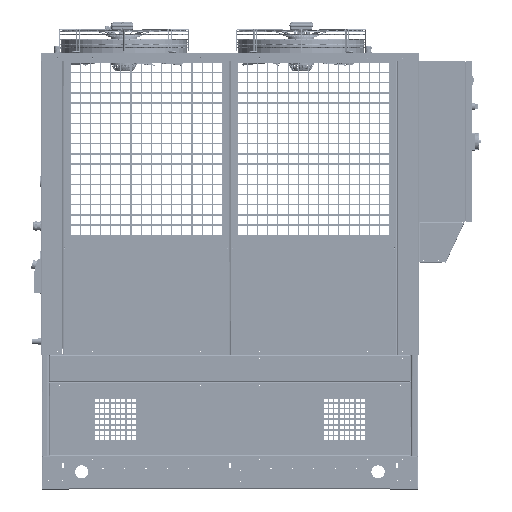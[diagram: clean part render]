
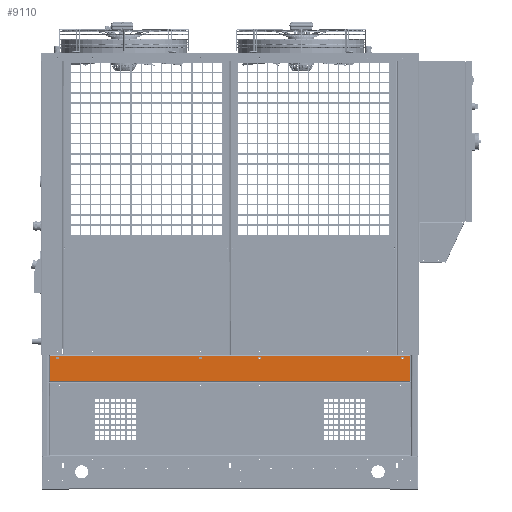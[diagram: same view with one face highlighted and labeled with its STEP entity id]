
A CAD part, top view. The second image highlights one B-rep face of the part: STEP entity #9110.
In plain terms, the highlighted planar face has unit normal (0, 0, 1).
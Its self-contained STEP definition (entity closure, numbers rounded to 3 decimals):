
#1119 = EDGE_CURVE ( 'NONE', #52846, #259518, #119959, .T. ) ;
#3527 = DIRECTION ( 'NONE',  ( 0., 0., 1. ) ) ;
#8339 = CARTESIAN_POINT ( 'NONE',  ( 672.75, -48.75, 0. ) ) ;
#9110 = ADVANCED_FACE ( 'NONE', ( #229196, #326012, #216278, #106721, #119667 ), #424300, .T. ) ;
#11253 = VECTOR ( 'NONE', #343715, 1000. ) ;
#19491 = AXIS2_PLACEMENT_3D ( 'NONE', #528167, #281430, #34521 ) ;
#24167 = LINE ( 'NONE', #428242, #11253 ) ;
#26623 = CARTESIAN_POINT ( 'NONE',  ( 110.95, 40.75, 0. ) ) ;
#27180 = DIRECTION ( 'NONE',  ( 0., 0., 1. ) ) ;
#28158 = CIRCLE ( 'NONE', #39585, 5.5 ) ;
#29662 = CARTESIAN_POINT ( 'NONE',  ( -645.45, 40.75, 0. ) ) ;
#29701 = CARTESIAN_POINT ( 'NONE',  ( -672.75, -45.75, 0. ) ) ;
#33751 = ORIENTED_EDGE ( 'NONE', *, *, #138100, .T. ) ;
#34521 = DIRECTION ( 'NONE',  ( -1., 0., 0. ) ) ;
#36565 = AXIS2_PLACEMENT_3D ( 'NONE', #118766, #406872, #160084 ) ;
#38744 = ORIENTED_EDGE ( 'NONE', *, *, #189154, .F. ) ;
#39585 = AXIS2_PLACEMENT_3D ( 'NONE', #274096, #27180, #315628 ) ;
#46726 = VERTEX_POINT ( 'NONE', #506224 ) ;
#48771 = AXIS2_PLACEMENT_3D ( 'NONE', #26623, #315084, #68113 ) ;
#48979 = CARTESIAN_POINT ( 'NONE',  ( -116.45, 40.75, 0. ) ) ;
#49564 = CARTESIAN_POINT ( 'NONE',  ( -110.95, 40.75, 0. ) ) ;
#52846 = VERTEX_POINT ( 'NONE', #226850 ) ;
#54338 = VERTEX_POINT ( 'NONE', #267734 ) ;
#56524 = CARTESIAN_POINT ( 'NONE',  ( 645.45, 40.75, 0. ) ) ;
#58479 = LINE ( 'NONE', #77660, #483899 ) ;
#58719 = VERTEX_POINT ( 'NONE', #519301 ) ;
#68077 = AXIS2_PLACEMENT_3D ( 'NONE', #382875, #465736, #218997 ) ;
#68113 = DIRECTION ( 'NONE',  ( -1., 0., 0. ) ) ;
#69437 = VERTEX_POINT ( 'NONE', #391870 ) ;
#71142 = DIRECTION ( 'NONE',  ( 1., 0., 0. ) ) ;
#72517 = EDGE_LOOP ( 'NONE', ( #38744, #531172 ) ) ;
#73005 = DIRECTION ( 'NONE',  ( 1., 0., 0. ) ) ;
#77660 = CARTESIAN_POINT ( 'NONE',  ( -672.75, -48.75, 0. ) ) ;
#82395 = EDGE_LOOP ( 'NONE', ( #33751, #331281 ) ) ;
#83871 = CIRCLE ( 'NONE', #19491, 5.5 ) ;
#91072 = DIRECTION ( 'NONE',  ( 1., 0., 0. ) ) ;
#95907 = VERTEX_POINT ( 'NONE', #135551 ) ;
#98054 = DIRECTION ( 'NONE',  ( -1., 0., 0. ) ) ;
#106721 = FACE_OUTER_BOUND ( 'NONE', #117902, .T. ) ;
#110337 = EDGE_CURVE ( 'NONE', #95907, #54338, #24167, .T. ) ;
#111994 = EDGE_CURVE ( 'NONE', #501181, #95907, #183214, .T. ) ;
#117902 = EDGE_LOOP ( 'NONE', ( #232212, #289185, #226694, #248452 ) ) ;
#118766 = CARTESIAN_POINT ( 'NONE',  ( 645.45, 40.75, 0. ) ) ;
#119667 = FACE_BOUND ( 'NONE', #82395, .T. ) ;
#119959 = CIRCLE ( 'NONE', #500566, 5.5 ) ;
#135551 = CARTESIAN_POINT ( 'NONE',  ( 672.75, 48.75, 0. ) ) ;
#138100 = EDGE_CURVE ( 'NONE', #297773, #46726, #151747, .T. ) ;
#140337 = VERTEX_POINT ( 'NONE', #29701 ) ;
#151747 = CIRCLE ( 'NONE', #48771, 5.5 ) ;
#160084 = DIRECTION ( 'NONE',  ( -1., 0., 0. ) ) ;
#160567 = DIRECTION ( 'NONE',  ( 0., -1., 0. ) ) ;
#171277 = EDGE_CURVE ( 'NONE', #259518, #52846, #493313, .T. ) ;
#183214 = LINE ( 'NONE', #8339, #292924 ) ;
#189154 = EDGE_CURVE ( 'NONE', #69437, #58719, #431920, .T. ) ;
#216278 = FACE_BOUND ( 'NONE', #72517, .T. ) ;
#218997 = DIRECTION ( 'NONE',  ( 1., 0., 0. ) ) ;
#219795 = LINE ( 'NONE', #278479, #426003 ) ;
#220493 = CARTESIAN_POINT ( 'NONE',  ( -105.45, 40.75, 0. ) ) ;
#226694 = ORIENTED_EDGE ( 'NONE', *, *, #111994, .T. ) ;
#226850 = CARTESIAN_POINT ( 'NONE',  ( 650.95, 40.75, 0. ) ) ;
#229196 = FACE_BOUND ( 'NONE', #232888, .T. ) ;
#232212 = ORIENTED_EDGE ( 'NONE', *, *, #290193, .T. ) ;
#232888 = EDGE_LOOP ( 'NONE', ( #498955, #292188 ) ) ;
#246209 = EDGE_CURVE ( 'NONE', #46726, #297773, #83871, .T. ) ;
#247304 = CARTESIAN_POINT ( 'NONE',  ( 639.95, 40.75, 0. ) ) ;
#248452 = ORIENTED_EDGE ( 'NONE', *, *, #110337, .T. ) ;
#250423 = CARTESIAN_POINT ( 'NONE',  ( -645.45, 40.75, 0. ) ) ;
#252897 = EDGE_LOOP ( 'NONE', ( #496450, #259346 ) ) ;
#259346 = ORIENTED_EDGE ( 'NONE', *, *, #270694, .F. ) ;
#259518 = VERTEX_POINT ( 'NONE', #247304 ) ;
#267734 = CARTESIAN_POINT ( 'NONE',  ( -672.75, 48.75, 0. ) ) ;
#270694 = EDGE_CURVE ( 'NONE', #410440, #504632, #473614, .T. ) ;
#274096 = CARTESIAN_POINT ( 'NONE',  ( -110.95, 40.75, 0. ) ) ;
#277367 = AXIS2_PLACEMENT_3D ( 'NONE', #250423, #3527, #291880 ) ;
#278479 = CARTESIAN_POINT ( 'NONE',  ( -672.75, -45.75, 0. ) ) ;
#281430 = DIRECTION ( 'NONE',  ( 0., 0., -1. ) ) ;
#289185 = ORIENTED_EDGE ( 'NONE', *, *, #453588, .T. ) ;
#290193 = EDGE_CURVE ( 'NONE', #54338, #140337, #58479, .T. ) ;
#291880 = DIRECTION ( 'NONE',  ( 1., 0., 0. ) ) ;
#292188 = ORIENTED_EDGE ( 'NONE', *, *, #171277, .T. ) ;
#292924 = VECTOR ( 'NONE', #338193, 1000. ) ;
#297773 = VERTEX_POINT ( 'NONE', #506611 ) ;
#298048 = EDGE_CURVE ( 'NONE', #504632, #410440, #28158, .T. ) ;
#315084 = DIRECTION ( 'NONE',  ( 0., 0., -1. ) ) ;
#315628 = DIRECTION ( 'NONE',  ( 1., 0., 0. ) ) ;
#318118 = DIRECTION ( 'NONE',  ( 0., 0., 1. ) ) ;
#326012 = FACE_BOUND ( 'NONE', #252897, .T. ) ;
#331281 = ORIENTED_EDGE ( 'NONE', *, *, #246209, .T. ) ;
#337985 = DIRECTION ( 'NONE',  ( 0., 0., 1. ) ) ;
#338193 = DIRECTION ( 'NONE',  ( 0., 1., 0. ) ) ;
#343715 = DIRECTION ( 'NONE',  ( -1., 0., 0. ) ) ;
#344868 = DIRECTION ( 'NONE',  ( 0., 0., -1. ) ) ;
#356059 = AXIS2_PLACEMENT_3D ( 'NONE', #49564, #337985, #91072 ) ;
#370435 = CIRCLE ( 'NONE', #390614, 5.5 ) ;
#382875 = CARTESIAN_POINT ( 'NONE',  ( 0., 0., 0. ) ) ;
#390614 = AXIS2_PLACEMENT_3D ( 'NONE', #29662, #318118, #71142 ) ;
#391870 = CARTESIAN_POINT ( 'NONE',  ( -639.95, 40.75, 0. ) ) ;
#406872 = DIRECTION ( 'NONE',  ( 0., 0., -1. ) ) ;
#410440 = VERTEX_POINT ( 'NONE', #48979 ) ;
#424300 = PLANE ( 'NONE',  #68077 ) ;
#426003 = VECTOR ( 'NONE', #73005, 1000. ) ;
#428242 = CARTESIAN_POINT ( 'NONE',  ( 672.75, 48.75, 0. ) ) ;
#431920 = CIRCLE ( 'NONE', #277367, 5.5 ) ;
#453588 = EDGE_CURVE ( 'NONE', #140337, #501181, #219795, .T. ) ;
#465736 = DIRECTION ( 'NONE',  ( 0., 0., 1. ) ) ;
#470072 = EDGE_CURVE ( 'NONE', #58719, #69437, #370435, .T. ) ;
#473614 = CIRCLE ( 'NONE', #356059, 5.5 ) ;
#483899 = VECTOR ( 'NONE', #160567, 1000. ) ;
#493313 = CIRCLE ( 'NONE', #36565, 5.5 ) ;
#496450 = ORIENTED_EDGE ( 'NONE', *, *, #298048, .F. ) ;
#498955 = ORIENTED_EDGE ( 'NONE', *, *, #1119, .T. ) ;
#499246 = CARTESIAN_POINT ( 'NONE',  ( 672.75, -45.75, 0. ) ) ;
#500566 = AXIS2_PLACEMENT_3D ( 'NONE', #56524, #344868, #98054 ) ;
#501181 = VERTEX_POINT ( 'NONE', #499246 ) ;
#504632 = VERTEX_POINT ( 'NONE', #220493 ) ;
#506224 = CARTESIAN_POINT ( 'NONE',  ( 105.45, 40.75, 0. ) ) ;
#506611 = CARTESIAN_POINT ( 'NONE',  ( 116.45, 40.75, 0. ) ) ;
#519301 = CARTESIAN_POINT ( 'NONE',  ( -650.95, 40.75, 0. ) ) ;
#528167 = CARTESIAN_POINT ( 'NONE',  ( 110.95, 40.75, 0. ) ) ;
#531172 = ORIENTED_EDGE ( 'NONE', *, *, #470072, .F. ) ;
